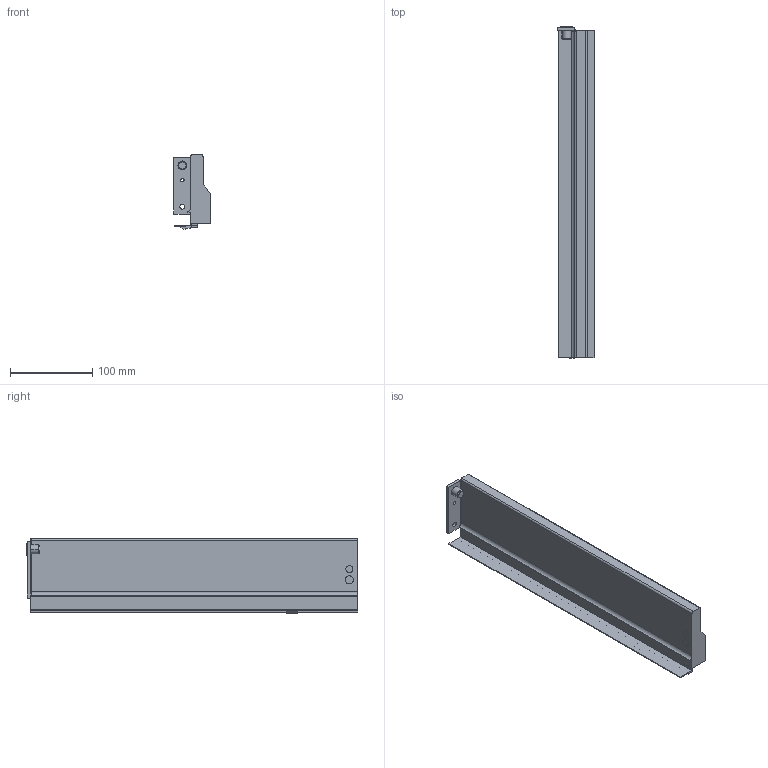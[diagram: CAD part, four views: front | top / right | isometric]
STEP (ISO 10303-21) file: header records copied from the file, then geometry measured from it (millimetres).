
FILE_DESCRIPTION (( 'STEP AP214' ), '1' );
FILE_NAME ('_IMOS_NOVA-Pro_Dekor-H90_CL_NL400_RE.step', '2010-07-06T09:00:17', ( 'grass' ), ( '' ), 'SwSTEP 2.0', 'SolidWorks 2009', '' );
FILE_SCHEMA (( 'AUTOMOTIVE_DESIGN' ));
Length unit declared in the file: millimetre
Products named in the file (1): _IMOS_NOVA-Pro_Dekor-H90_CL_NL400_RE
Bounding box: 44.3 x 402.7 x 90.49 mm (x, y, z)
Volume: 358103.6 mm3; surface area: 139781.9 mm2
Topology: 1 solids, 1 shells, 89 faces, 239 edges, 156 vertices
Faces by surface type: plane 57, cylinder 27, cone 4, bspline 1
Entity records: 2825 total; most frequent: CARTESIAN_POINT 506, ORIENTED_EDGE 478, DIRECTION 474, EDGE_CURVE 239, LINE 178, VECTOR 178, VERTEX_POINT 156, AXIS2_PLACEMENT_3D 148
